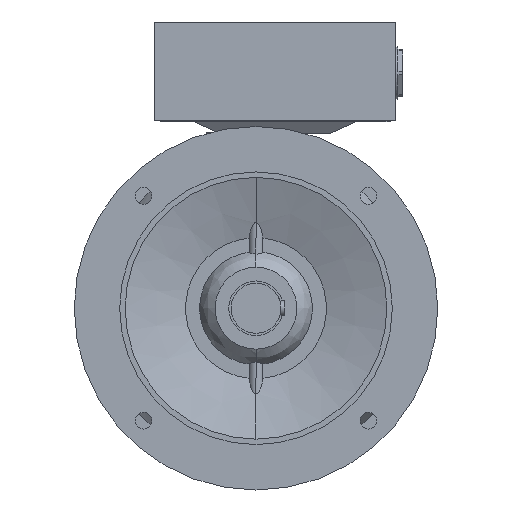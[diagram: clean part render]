
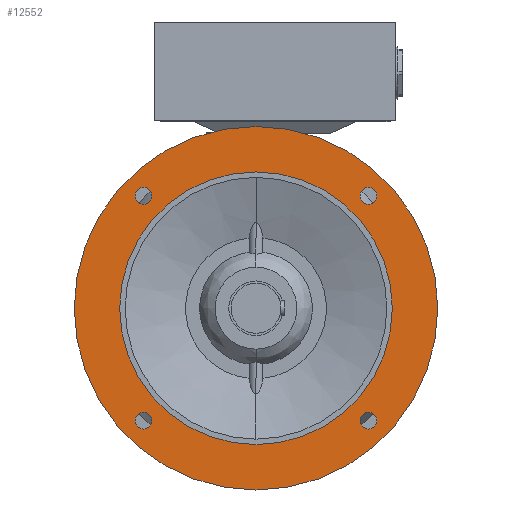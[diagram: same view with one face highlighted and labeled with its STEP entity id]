
A CAD part, left-side view. The second image highlights one B-rep face of the part: STEP entity #12552.
In plain terms, the highlighted planar face has unit normal (-1, 0, 0).
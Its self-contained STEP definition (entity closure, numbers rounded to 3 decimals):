
#334 = CIRCLE ( 'NONE', #825, 9.25 ) ;
#342 = CIRCLE ( 'NONE', #828, 9.25 ) ;
#374 = CIRCLE ( 'NONE', #841, 200. ) ;
#395 = CIRCLE ( 'NONE', #849, 9.25 ) ;
#410 = CIRCLE ( 'NONE', #854, 9.25 ) ;
#447 = CIRCLE ( 'NONE', #871, 150. ) ;
#677 = EDGE_CURVE ( 'NONE', #9837, #9862, #334, .T. ) ;
#683 = EDGE_CURVE ( 'NONE', #9902, #10008, #342, .T. ) ;
#709 = EDGE_CURVE ( 'NONE', #9777, #9999, #374, .T. ) ;
#727 = EDGE_CURVE ( 'NONE', #9762, #9884, #395, .T. ) ;
#737 = EDGE_CURVE ( 'NONE', #9957, #9882, #410, .T. ) ;
#768 = EDGE_CURVE ( 'NONE', #9931, #9879, #447, .T. ) ;
#825 = AXIS2_PLACEMENT_3D ( 'NONE', #16572, #16573, #16574 ) ;
#828 = AXIS2_PLACEMENT_3D ( 'NONE', #16595, #16596, #16597 ) ;
#841 = AXIS2_PLACEMENT_3D ( 'NONE', #16672, #16673, #16674 ) ;
#849 = AXIS2_PLACEMENT_3D ( 'NONE', #16731, #16732, #16733 ) ;
#854 = AXIS2_PLACEMENT_3D ( 'NONE', #16763, #16764, #16765 ) ;
#871 = AXIS2_PLACEMENT_3D ( 'NONE', #16896, #16897, #16898 ) ;
#1017 = AXIS2_PLACEMENT_3D ( 'NONE', #15299, #15285, #15302 ) ;
#2604 = CARTESIAN_POINT ( 'NONE',  ( -87., 123.744, 132.994 ) ) ;
#2605 = CARTESIAN_POINT ( 'NONE',  ( -87., 0., -200. ) ) ;
#2624 = CARTESIAN_POINT ( 'NONE',  ( -87., -123.744, -114.494 ) ) ;
#2639 = CARTESIAN_POINT ( 'NONE',  ( -87., -123.744, -132.994 ) ) ;
#2641 = CARTESIAN_POINT ( 'NONE',  ( -87., 0., 150. ) ) ;
#2648 = CARTESIAN_POINT ( 'NONE',  ( -87., 123.744, -132.994 ) ) ;
#2649 = CARTESIAN_POINT ( 'NONE',  ( -87., 123.744, 114.494 ) ) ;
#2657 = CARTESIAN_POINT ( 'NONE',  ( -87., -123.744, 132.994 ) ) ;
#2662 = CARTESIAN_POINT ( 'NONE',  ( -87., 0., -150. ) ) ;
#2670 = CARTESIAN_POINT ( 'NONE',  ( -87., 123.744, -114.494 ) ) ;
#2679 = CARTESIAN_POINT ( 'NONE',  ( -87., -123.744, 114.494 ) ) ;
#2683 = CARTESIAN_POINT ( 'NONE',  ( -87., 0., 200. ) ) ;
#4524 = CIRCLE ( 'NONE', #21512, 200. ) ;
#4526 = CIRCLE ( 'NONE', #21513, 9.25 ) ;
#4528 = CIRCLE ( 'NONE', #21514, 9.25 ) ;
#4530 = CIRCLE ( 'NONE', #21515, 9.25 ) ;
#4532 = CIRCLE ( 'NONE', #21516, 9.25 ) ;
#4559 = CIRCLE ( 'NONE', #21517, 150. ) ;
#4662 = FACE_BOUND ( 'NONE', #20996, .T. ) ;
#4664 = FACE_OUTER_BOUND ( 'NONE', #20993, .T. ) ;
#4669 = FACE_BOUND ( 'NONE', #20976, .T. ) ;
#4671 = FACE_BOUND ( 'NONE', #20968, .T. ) ;
#4673 = FACE_BOUND ( 'NONE', #20987, .T. ) ;
#4675 = FACE_BOUND ( 'NONE', #20995, .T. ) ;
#9762 = VERTEX_POINT ( 'NONE', #2604 ) ;
#9777 = VERTEX_POINT ( 'NONE', #2605 ) ;
#9837 = VERTEX_POINT ( 'NONE', #2624 ) ;
#9862 = VERTEX_POINT ( 'NONE', #2639 ) ;
#9879 = VERTEX_POINT ( 'NONE', #2641 ) ;
#9882 = VERTEX_POINT ( 'NONE', #2648 ) ;
#9884 = VERTEX_POINT ( 'NONE', #2649 ) ;
#9902 = VERTEX_POINT ( 'NONE', #2657 ) ;
#9931 = VERTEX_POINT ( 'NONE', #2662 ) ;
#9957 = VERTEX_POINT ( 'NONE', #2670 ) ;
#9999 = VERTEX_POINT ( 'NONE', #2683 ) ;
#10008 = VERTEX_POINT ( 'NONE', #2679 ) ;
#12253 = ORIENTED_EDGE ( 'NONE', *, *, #20196, .T. ) ;
#12254 = ORIENTED_EDGE ( 'NONE', *, *, #768, .T. ) ;
#12255 = ORIENTED_EDGE ( 'NONE', *, *, #20184, .F. ) ;
#12256 = ORIENTED_EDGE ( 'NONE', *, *, #709, .F. ) ;
#12257 = ORIENTED_EDGE ( 'NONE', *, *, #20185, .T. ) ;
#12258 = ORIENTED_EDGE ( 'NONE', *, *, #683, .T. ) ;
#12259 = ORIENTED_EDGE ( 'NONE', *, *, #20186, .T. ) ;
#12260 = ORIENTED_EDGE ( 'NONE', *, *, #727, .T. ) ;
#12261 = ORIENTED_EDGE ( 'NONE', *, *, #20187, .T. ) ;
#12262 = ORIENTED_EDGE ( 'NONE', *, *, #737, .T. ) ;
#12263 = ORIENTED_EDGE ( 'NONE', *, *, #20188, .T. ) ;
#12264 = ORIENTED_EDGE ( 'NONE', *, *, #677, .T. ) ;
#12552 = ADVANCED_FACE ( 'NONE', ( #4662, #4664, #4671, #4669, #4673, #4675 ), #15300, .T. ) ;
#15285 = DIRECTION ( 'NONE',  ( -1., 0., 0. ) ) ;
#15299 = CARTESIAN_POINT ( 'NONE',  ( -87., 175., 0. ) ) ;
#15300 = PLANE ( 'NONE',  #1017 ) ;
#15302 = DIRECTION ( 'NONE',  ( 0., 0., 1. ) ) ;
#16572 = CARTESIAN_POINT ( 'NONE',  ( -87., -123.744, -123.744 ) ) ;
#16573 = DIRECTION ( 'NONE',  ( 1., 0., 0. ) ) ;
#16574 = DIRECTION ( 'NONE',  ( 0., 0., -1. ) ) ;
#16595 = CARTESIAN_POINT ( 'NONE',  ( -87., -123.744, 123.744 ) ) ;
#16596 = DIRECTION ( 'NONE',  ( 1., 0., 0. ) ) ;
#16597 = DIRECTION ( 'NONE',  ( 0., 0., -1. ) ) ;
#16672 = CARTESIAN_POINT ( 'NONE',  ( -87., 0., 0. ) ) ;
#16673 = DIRECTION ( 'NONE',  ( 1., 0., 0. ) ) ;
#16674 = DIRECTION ( 'NONE',  ( 0., 0., 1. ) ) ;
#16731 = CARTESIAN_POINT ( 'NONE',  ( -87., 123.744, 123.744 ) ) ;
#16732 = DIRECTION ( 'NONE',  ( 1., 0., 0. ) ) ;
#16733 = DIRECTION ( 'NONE',  ( 0., 0., -1. ) ) ;
#16763 = CARTESIAN_POINT ( 'NONE',  ( -87., 123.744, -123.744 ) ) ;
#16764 = DIRECTION ( 'NONE',  ( 1., 0., 0. ) ) ;
#16765 = DIRECTION ( 'NONE',  ( 0., 0., -1. ) ) ;
#16896 = CARTESIAN_POINT ( 'NONE',  ( -87., 0., 0. ) ) ;
#16897 = DIRECTION ( 'NONE',  ( 1., 0., 0. ) ) ;
#16898 = DIRECTION ( 'NONE',  ( 0., 0., 1. ) ) ;
#20184 = EDGE_CURVE ( 'NONE', #9999, #9777, #4524, .T. ) ;
#20185 = EDGE_CURVE ( 'NONE', #10008, #9902, #4526, .T. ) ;
#20186 = EDGE_CURVE ( 'NONE', #9884, #9762, #4528, .T. ) ;
#20187 = EDGE_CURVE ( 'NONE', #9882, #9957, #4530, .T. ) ;
#20188 = EDGE_CURVE ( 'NONE', #9862, #9837, #4532, .T. ) ;
#20196 = EDGE_CURVE ( 'NONE', #9879, #9931, #4559, .T. ) ;
#20968 = EDGE_LOOP ( 'NONE', ( #12257, #12258 ) ) ;
#20976 = EDGE_LOOP ( 'NONE', ( #12259, #12260 ) ) ;
#20987 = EDGE_LOOP ( 'NONE', ( #12261, #12262 ) ) ;
#20993 = EDGE_LOOP ( 'NONE', ( #12255, #12256 ) ) ;
#20995 = EDGE_LOOP ( 'NONE', ( #12263, #12264 ) ) ;
#20996 = EDGE_LOOP ( 'NONE', ( #12253, #12254 ) ) ;
#21512 = AXIS2_PLACEMENT_3D ( 'NONE', #23641, #23642, #23643 ) ;
#21513 = AXIS2_PLACEMENT_3D ( 'NONE', #23644, #23645, #23646 ) ;
#21514 = AXIS2_PLACEMENT_3D ( 'NONE', #23647, #23648, #23649 ) ;
#21515 = AXIS2_PLACEMENT_3D ( 'NONE', #23651, #23652, #23653 ) ;
#21516 = AXIS2_PLACEMENT_3D ( 'NONE', #23656, #23657, #23658 ) ;
#21517 = AXIS2_PLACEMENT_3D ( 'NONE', #23673, #23674, #23675 ) ;
#23641 = CARTESIAN_POINT ( 'NONE',  ( -87., 0., 0. ) ) ;
#23642 = DIRECTION ( 'NONE',  ( 1., 0., 0. ) ) ;
#23643 = DIRECTION ( 'NONE',  ( 0., 0., 1. ) ) ;
#23644 = CARTESIAN_POINT ( 'NONE',  ( -87., -123.744, 123.744 ) ) ;
#23645 = DIRECTION ( 'NONE',  ( 1., 0., 0. ) ) ;
#23646 = DIRECTION ( 'NONE',  ( 0., 0., -1. ) ) ;
#23647 = CARTESIAN_POINT ( 'NONE',  ( -87., 123.744, 123.744 ) ) ;
#23648 = DIRECTION ( 'NONE',  ( 1., 0., 0. ) ) ;
#23649 = DIRECTION ( 'NONE',  ( 0., 0., -1. ) ) ;
#23651 = CARTESIAN_POINT ( 'NONE',  ( -87., 123.744, -123.744 ) ) ;
#23652 = DIRECTION ( 'NONE',  ( 1., 0., 0. ) ) ;
#23653 = DIRECTION ( 'NONE',  ( 0., 0., -1. ) ) ;
#23656 = CARTESIAN_POINT ( 'NONE',  ( -87., -123.744, -123.744 ) ) ;
#23657 = DIRECTION ( 'NONE',  ( 1., 0., 0. ) ) ;
#23658 = DIRECTION ( 'NONE',  ( 0., 0., -1. ) ) ;
#23673 = CARTESIAN_POINT ( 'NONE',  ( -87., 0., 0. ) ) ;
#23674 = DIRECTION ( 'NONE',  ( 1., 0., 0. ) ) ;
#23675 = DIRECTION ( 'NONE',  ( 0., 0., 1. ) ) ;
